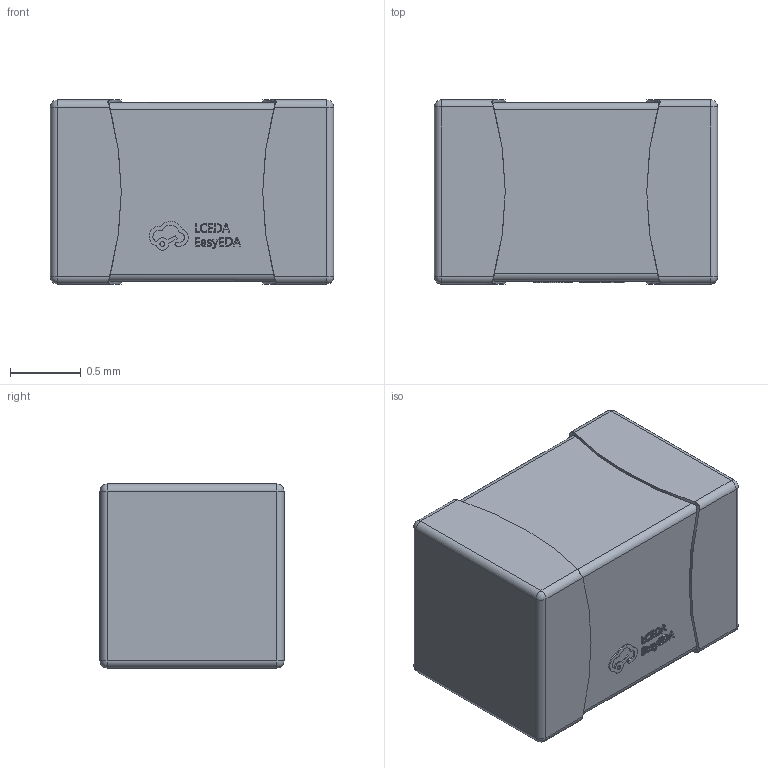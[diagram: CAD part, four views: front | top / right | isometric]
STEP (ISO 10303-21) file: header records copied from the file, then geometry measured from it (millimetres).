
FILE_DESCRIPTION(/* description */ ('STEP AP242 Edition 2','CAx-IF Rec.Pracs.---Representation and Presentation of Product Manufacturing Information (PMI)---4.0---2014-10-13','CAx-IF Rec.Pracs.---3D Tessellated Geometry---0.4---2014-09-14','2;1','CAx-IF Rec.Pracs.---User Defined Attributes---1.5---2016-08-15'),/* implementation_level */ '2;1');
FILE_NAME(/* name */ 'Assembly 1 - C0805~C0805_L2.0-W1.3-H1.3~nxQB_1',/* time_stamp */ '2026-04-02T09:55:08Z',/* author */ (''),/* organization */ (''),/* preprocessor_version */ 'ST-DEVELOPER v20',/* originating_system */ 'ONSHAPE BY PTC INC, 1.212',/* authorisation */ ' ');
FILE_SCHEMA (('AP242_MANAGED_MODEL_BASED_3D_ENGINEERING_MIM_LF { 1 0 10303 442 3 1 4 }'));
Length unit declared in the file: metre
Products named in the file (1): C0805~C0805_L2.0-W1.3-H1.3~nxQB_1
Bounding box: 2 x 1.3 x 1.3 mm (x, y, z)
Volume: 3.3 mm3; surface area: 13.5 mm2
Topology: 1 solids, 1 shells, 363 faces, 965 edges, 622 vertices
Faces by surface type: plane 200, cylinder 149, sphere 8, bspline 6
Entity records: 12204 total; most frequent: CARTESIAN_POINT 2534, ORIENTED_EDGE 1914, DIRECTION 1866, EDGE_CURVE 957, AXIS2_PLACEMENT_3D 674, VERTEX_POINT 622, LINE 518, VECTOR 518
